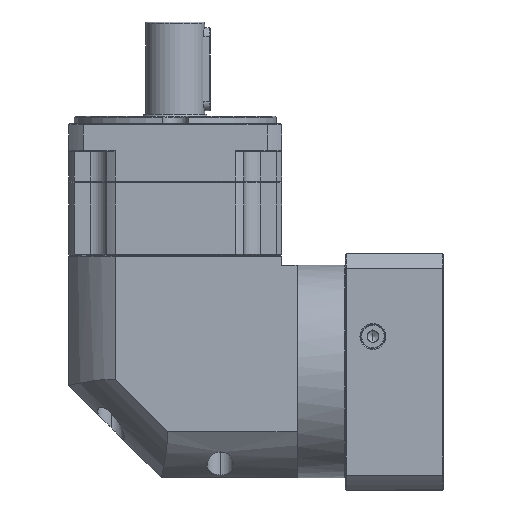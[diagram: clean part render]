
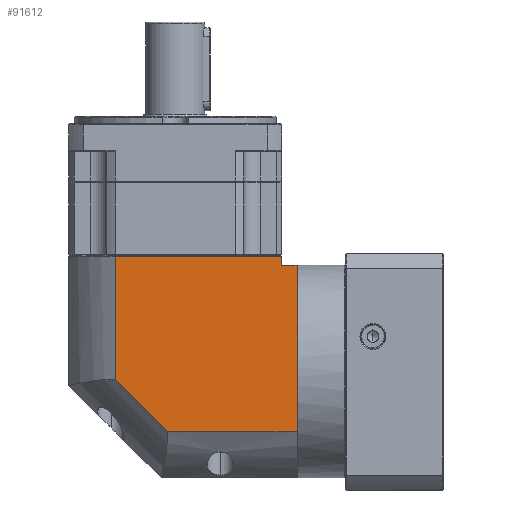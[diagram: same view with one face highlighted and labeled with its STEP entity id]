
A CAD part, left-side view. The second image highlights one B-rep face of the part: STEP entity #91612.
In plain terms, the highlighted planar face has unit normal (-1, 0, 0).
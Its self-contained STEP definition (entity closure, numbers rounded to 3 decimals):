
#1494 = VERTEX_POINT ( 'NONE', #98110 ) ;
#2934 = CARTESIAN_POINT ( 'NONE',  ( -266.667, -117.285, -38.009 ) ) ;
#7760 = PLANE ( 'NONE',  #145596 ) ;
#11345 = CARTESIAN_POINT ( 'NONE',  ( -266.667, -18.985, 63.391 ) ) ;
#12292 = EDGE_CURVE ( 'NONE', #172978, #145014, #111791, .T. ) ;
#15472 = ORIENTED_EDGE ( 'NONE', *, *, #12292, .F. ) ;
#21557 = VECTOR ( 'NONE', #44366, 1000. ) ;
#22644 = VERTEX_POINT ( 'NONE', #80104 ) ;
#23128 = ORIENTED_EDGE ( 'NONE', *, *, #155721, .T. ) ;
#28371 = EDGE_CURVE ( 'NONE', #145014, #22644, #107911, .T. ) ;
#32588 = VECTOR ( 'NONE', #73753, 1000. ) ;
#43247 = CARTESIAN_POINT ( 'NONE',  ( -266.667, -117.285, 51.891 ) ) ;
#44280 = VECTOR ( 'NONE', #124678, 1000. ) ;
#44366 = DIRECTION ( 'NONE',  ( 0., 1., 0. ) ) ;
#44537 = VECTOR ( 'NONE', #129091, 1000. ) ;
#50358 = EDGE_LOOP ( 'NONE', ( #75882, #134840, #103139, #15472, #158192, #23128, #116474 ) ) ;
#54684 = VECTOR ( 'NONE', #91881, 1000. ) ;
#57339 = LINE ( 'NONE', #84351, #21557 ) ;
#60045 = VERTEX_POINT ( 'NONE', #148238 ) ;
#62414 = EDGE_CURVE ( 'NONE', #60045, #1494, #104084, .T. ) ;
#68366 = CARTESIAN_POINT ( 'NONE',  ( -266.667, -108.885, -63.109 ) ) ;
#69833 = DIRECTION ( 'NONE',  ( 0., 1., 0. ) ) ;
#73733 = CARTESIAN_POINT ( 'NONE',  ( -266.667, -47.323, -38.009 ) ) ;
#73753 = DIRECTION ( 'NONE',  ( 0., -1., 0. ) ) ;
#75339 = DIRECTION ( 'NONE',  ( 1., 0., 0. ) ) ;
#75882 = ORIENTED_EDGE ( 'NONE', *, *, #103086, .F. ) ;
#80041 = LINE ( 'NONE', #68366, #44280 ) ;
#80104 = CARTESIAN_POINT ( 'NONE',  ( -266.667, -47.323, -38.009 ) ) ;
#84351 = CARTESIAN_POINT ( 'NONE',  ( -266.667, -108.885, 51.891 ) ) ;
#90413 = LINE ( 'NONE', #11345, #54684 ) ;
#91507 = CARTESIAN_POINT ( 'NONE',  ( -266.667, -108.885, 51.891 ) ) ;
#91612 = ADVANCED_FACE ( 'NONE', ( #119309 ), #7760, .F. ) ;
#91881 = DIRECTION ( 'NONE',  ( 0., 0., 1. ) ) ;
#93189 = EDGE_CURVE ( 'NONE', #22644, #139673, #101498, .T. ) ;
#98110 = CARTESIAN_POINT ( 'NONE',  ( -266.667, -108.885, 56.891 ) ) ;
#101498 = LINE ( 'NONE', #73733, #172835 ) ;
#102144 = CARTESIAN_POINT ( 'NONE',  ( -266.667, -117.285, 63.391 ) ) ;
#103086 = EDGE_CURVE ( 'NONE', #139673, #60045, #90413, .T. ) ;
#103139 = ORIENTED_EDGE ( 'NONE', *, *, #28371, .F. ) ;
#104084 = LINE ( 'NONE', #154226, #32588 ) ;
#107402 = CARTESIAN_POINT ( 'NONE',  ( -266.667, 6.115, -38.009 ) ) ;
#107911 = LINE ( 'NONE', #107402, #139442 ) ;
#111791 = LINE ( 'NONE', #102144, #44537 ) ;
#115568 = EDGE_CURVE ( 'NONE', #172978, #162727, #57339, .T. ) ;
#116474 = ORIENTED_EDGE ( 'NONE', *, *, #62414, .F. ) ;
#119309 = FACE_OUTER_BOUND ( 'NONE', #50358, .T. ) ;
#124678 = DIRECTION ( 'NONE',  ( 0., 0., 1. ) ) ;
#129091 = DIRECTION ( 'NONE',  ( 0., 0., -1. ) ) ;
#134840 = ORIENTED_EDGE ( 'NONE', *, *, #93189, .F. ) ;
#139442 = VECTOR ( 'NONE', #69833, 1000. ) ;
#139673 = VERTEX_POINT ( 'NONE', #158795 ) ;
#145014 = VERTEX_POINT ( 'NONE', #2934 ) ;
#145596 = AXIS2_PLACEMENT_3D ( 'NONE', #155811, #75339, #169272 ) ;
#148238 = CARTESIAN_POINT ( 'NONE',  ( -266.667, -18.985, 56.891 ) ) ;
#154226 = CARTESIAN_POINT ( 'NONE',  ( -266.667, 6.115, 56.891 ) ) ;
#155721 = EDGE_CURVE ( 'NONE', #162727, #1494, #80041, .T. ) ;
#155811 = CARTESIAN_POINT ( 'NONE',  ( -266.667, 6.115, 63.391 ) ) ;
#158192 = ORIENTED_EDGE ( 'NONE', *, *, #115568, .T. ) ;
#158795 = CARTESIAN_POINT ( 'NONE',  ( -266.667, -18.985, -9.671 ) ) ;
#162727 = VERTEX_POINT ( 'NONE', #91507 ) ;
#167696 = DIRECTION ( 'NONE',  ( 0., 0.707, 0.707 ) ) ;
#169272 = DIRECTION ( 'NONE',  ( 0., 1., 0. ) ) ;
#172835 = VECTOR ( 'NONE', #167696, 1000. ) ;
#172978 = VERTEX_POINT ( 'NONE', #43247 ) ;
